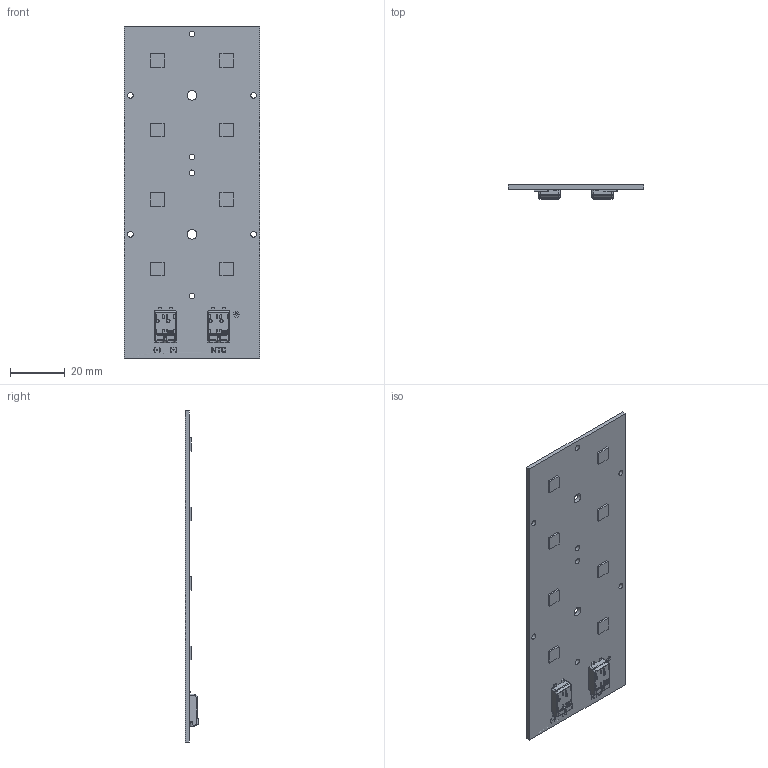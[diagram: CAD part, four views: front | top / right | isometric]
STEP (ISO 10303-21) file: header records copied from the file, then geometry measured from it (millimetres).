
FILE_DESCRIPTION(/* description */ ('Unknown'),/* implementation_level */ '2;1');
FILE_NAME(/* name */ 'RecLED 122x50mm 2x4 5050 sh-000 2024-01-19',/* time_stamp */ '2024-01-19T13:18:34+01:00',/* author */ ('Unknown'),/* organization */ ('Unknown'),/* preprocessor_version */ 'ST-DEVELOPER v18.102',/* originating_system */ 'Solid Edge',/* authorisation */ 'Unknown');
FILE_SCHEMA (('AUTOMOTIVE_DESIGN {1 0 10303 214 3 1 1}'));
Length unit declared in the file: millimetre
Products named in the file (1): RecLED 122x50mm 2x4 5050 sh-000 2024-01-19
Bounding box: 49.5 x 4.95 x 121.4 mm (x, y, z)
Volume: 9579.4 mm3; surface area: 13368.5 mm2
Topology: 1 solids, 1 shells, 957 faces, 2485 edges, 1546 vertices
Faces by surface type: plane 439, cylinder 255, torus 104, cone 88, bspline 51, sphere 20
Full cylindrical faces by diameter (mm): 2.1 x8, 3.5 x2
Entity records: 37229 total; most frequent: CARTESIAN_POINT 8978, ORIENTED_EDGE 4854, DIRECTION 3802, EDGE_CURVE 2427, VERTEX_POINT 1526, AXIS2_PLACEMENT_3D 1305, LINE 1192, VECTOR 1192
